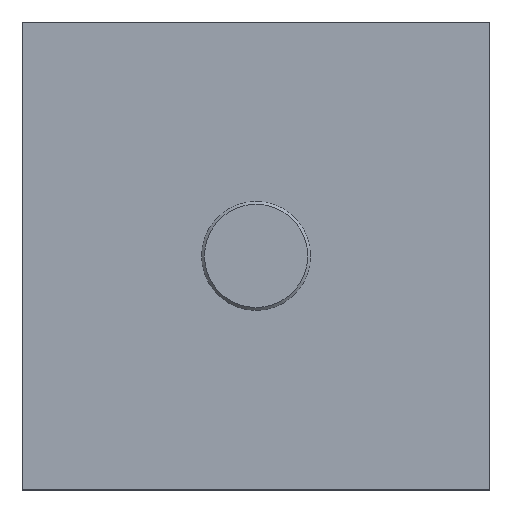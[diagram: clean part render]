
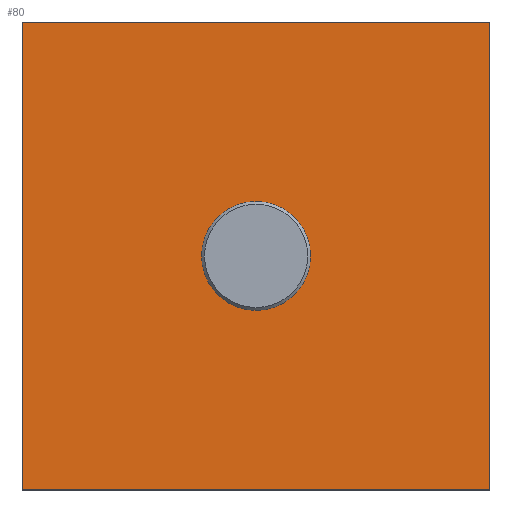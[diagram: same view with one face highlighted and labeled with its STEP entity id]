
A CAD part, top view. The second image highlights one B-rep face of the part: STEP entity #80.
In plain terms, the highlighted planar face has unit normal (0, 0, 1).
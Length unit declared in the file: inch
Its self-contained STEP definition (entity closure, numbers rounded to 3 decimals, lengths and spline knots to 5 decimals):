
#80=ADVANCED_FACE('',(#97,#98),#99,.T.);
#97=FACE_OUTER_BOUND('',#121,.T.);
#98=FACE_BOUND('',#122,.T.);
#99=PLANE('',#123);
#121=EDGE_LOOP('',(#170,#171,#172,#173));
#122=EDGE_LOOP('',(#174));
#123=AXIS2_PLACEMENT_3D('',#175,#176,#177);
#170=ORIENTED_EDGE('',*,*,#204,.T.);
#171=ORIENTED_EDGE('',*,*,#201,.T.);
#172=ORIENTED_EDGE('',*,*,#198,.T.);
#173=ORIENTED_EDGE('',*,*,#207,.T.);
#174=ORIENTED_EDGE('',*,*,#209,.F.);
#175=CARTESIAN_POINT('',(21.93732,16.213,-0.137));
#176=DIRECTION('',(0.0,0.,1.0));
#177=DIRECTION('',(0.0,-1.0,0.));
#198=EDGE_CURVE('',#217,#215,#218,.T.);
#201=EDGE_CURVE('',#222,#217,#223,.T.);
#204=EDGE_CURVE('',#227,#222,#228,.T.);
#207=EDGE_CURVE('',#215,#227,#231,.T.);
#209=EDGE_CURVE('',#234,#234,#235,.T.);
#215=VERTEX_POINT('',#244);
#217=VERTEX_POINT('',#247);
#218=LINE('',#248,#249);
#222=VERTEX_POINT('',#255);
#223=LINE('',#256,#257);
#227=VERTEX_POINT('',#263);
#228=LINE('',#264,#265);
#231=LINE('',#270,#271);
#234=VERTEX_POINT('',#274);
#235=CIRCLE('',#275,0.23271);
#244=CARTESIAN_POINT('',(23.8245,14.34304,-0.137));
#247=CARTESIAN_POINT('',(25.82489,14.34304,-0.137));
#248=CARTESIAN_POINT('',(23.39576,14.34304,-0.137));
#249=VECTOR('',#282,1.0);
#255=CARTESIAN_POINT('',(25.82489,12.34261,-0.137));
#256=CARTESIAN_POINT('',(25.82489,14.69741,-0.137));
#257=VECTOR('',#285,1.0);
#263=CARTESIAN_POINT('',(23.8245,12.34261,-0.137));
#264=CARTESIAN_POINT('',(23.39576,12.34261,-0.137));
#265=VECTOR('',#288,1.0);
#270=CARTESIAN_POINT('',(23.8245,14.69741,-0.137));
#271=VECTOR('',#291,1.0);
#274=CARTESIAN_POINT('',(24.59229,13.343,-0.137));
#275=AXIS2_PLACEMENT_3D('',#295,#296,#297);
#282=DIRECTION('',(-1.0,0.0,-0.0));
#285=DIRECTION('',(0.0,1.0,0.));
#288=DIRECTION('',(1.0,0.0,0.0));
#291=DIRECTION('',(0.0,-1.0,0.));
#295=CARTESIAN_POINT('',(24.825,13.343,-0.137));
#296=DIRECTION('',(0.0,0.,1.0));
#297=DIRECTION('',(-1.0,0.0,-0.0));
